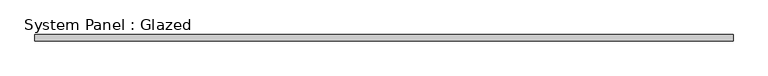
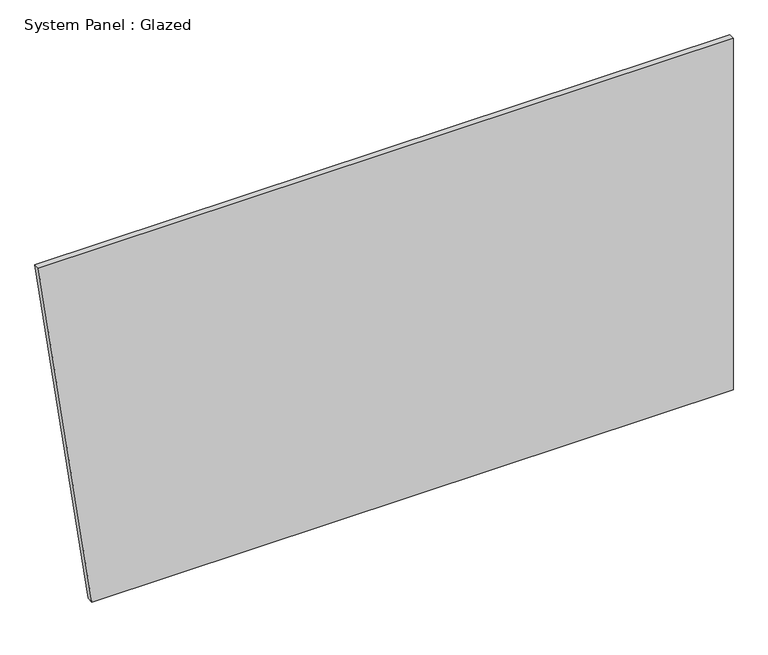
"""IFC4 building model written with IfcOpenShell, lengths in millimetres: plate geometry, System Panel : Glazed."""

from ifc_helpers import new_model, si_unit, frame, origin, place, context, project, spatial, polyline, outline, extrude, source, transform, mapped, element, save


def system_panel_glazed_461eddc3(model_context):
    return source(origin(), model_context, "Body", "SweptSolid", [
        extrude(outline(polyline([(0.0, -1206.0431656), (0.0, 1425.3237412), (1524.0, 1425.3237412), (1524.0, -1425.3237412), (0.0, -1206.0431656)])), frame((0.0, 19.05, 0.0), z_axis=(0.0, 1.0, 0.0), x_axis=(0.0, 0.0, 1.0)), (0.0, 0.0, 1.0), 25.4),
    ])


if __name__ == "__main__":
    model = new_model("IFC4")
    model_context = context("Model", 3, world=origin())
    ifc_project = project(units=[si_unit("LENGTHUNIT", "METRE", prefix="MILLI")], contexts=[model_context])
    site = spatial("IfcSite", under=ifc_project)
    building = spatial("IfcBuilding", under=site)
    placement = place(None, origin())
    system_panel_glazed_shape = system_panel_glazed_461eddc3(model_context)
    element("IfcPlate", 1, ObjectType="System Panel : Glazed", at=placement, inside=building, context=model_context, shape_type="MappedRepresentation", body=[
        mapped(system_panel_glazed_shape, transform((0.0, 0.0, 0.0), x_axis=(1.0, 0.0, 0.0), y_axis=(0.0, 1.0, 0.0), z_axis=(0.0, 0.0, 1.0))),
    ])
    save(model, "model.ifc")
